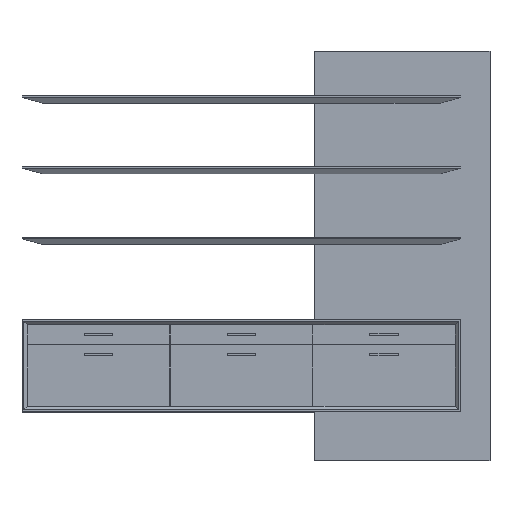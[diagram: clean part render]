
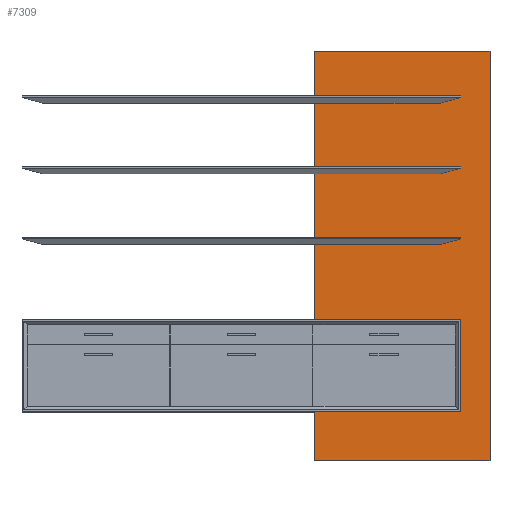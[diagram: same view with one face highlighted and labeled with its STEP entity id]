
A CAD part, top view. The second image highlights one B-rep face of the part: STEP entity #7309.
In plain terms, the highlighted planar face has unit normal (0, 0, 1).
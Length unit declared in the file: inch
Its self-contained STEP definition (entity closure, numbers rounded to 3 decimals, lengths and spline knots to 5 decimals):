
#1200=FACE_OUTER_BOUND('',#1593,.T.);
#1593=EDGE_LOOP('',(#5549,#5550,#5551,#5552));
#2128=LINE('',#11526,#2860);
#2133=LINE('',#11535,#2865);
#2137=LINE('',#11543,#2869);
#2138=LINE('',#11545,#2870);
#2860=VECTOR('',#9149,0.3937);
#2865=VECTOR('',#9156,0.3937);
#2869=VECTOR('',#9164,0.3937);
#2870=VECTOR('',#9167,0.3937);
#3509=VERTEX_POINT('',#11523);
#3510=VERTEX_POINT('',#11525);
#3513=VERTEX_POINT('',#11533);
#3515=VERTEX_POINT('',#11541);
#4258=EDGE_CURVE('',#3510,#3509,#2128,.T.);
#4263=EDGE_CURVE('',#3509,#3513,#2133,.T.);
#4267=EDGE_CURVE('',#3513,#3515,#2137,.T.);
#4268=EDGE_CURVE('',#3515,#3510,#2138,.T.);
#5549=ORIENTED_EDGE('',*,*,#4267,.T.);
#5550=ORIENTED_EDGE('',*,*,#4268,.T.);
#5551=ORIENTED_EDGE('',*,*,#4258,.T.);
#5552=ORIENTED_EDGE('',*,*,#4263,.T.);
#7040=PLANE('',#8014);
#7309=ADVANCED_FACE('',(#1200),#7040,.T.);
#8014=AXIS2_PLACEMENT_3D('',#11546,#9168,#9169);
#9149=DIRECTION('',(0.,-1.,0.));
#9156=DIRECTION('',(1.,0.,0.));
#9164=DIRECTION('',(0.,1.,0.));
#9167=DIRECTION('',(-1.,0.,0.));
#9168=DIRECTION('center_axis',(0.,0.,1.));
#9169=DIRECTION('ref_axis',(1.,0.,0.));
#11523=CARTESIAN_POINT('',(0.,0.,0.75));
#11525=CARTESIAN_POINT('',(0.,84.,0.75));
#11526=CARTESIAN_POINT('',(0.,84.,0.75));
#11533=CARTESIAN_POINT('',(36.,0.,0.75));
#11535=CARTESIAN_POINT('',(0.,0.,0.75));
#11541=CARTESIAN_POINT('',(36.,84.,0.75));
#11543=CARTESIAN_POINT('',(36.,0.,0.75));
#11545=CARTESIAN_POINT('',(36.,84.,0.75));
#11546=CARTESIAN_POINT('Origin',(18.,42.,0.75));
